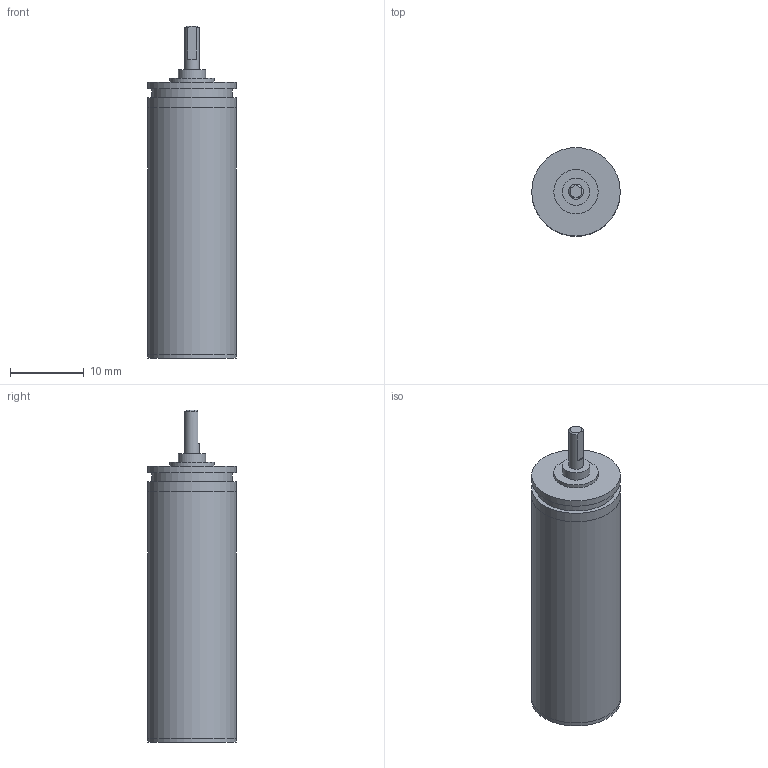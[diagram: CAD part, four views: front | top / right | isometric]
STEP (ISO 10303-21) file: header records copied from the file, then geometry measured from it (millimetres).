
FILE_DESCRIPTION(/* description */ (''),/* implementation_level */ '2;1');
FILE_NAME(/* name */ '12-3K_13.stp',/* time_stamp */ '2016-08-24T10:26:08+02:00',/* author */ ('DR. FRITZ FAULHABER GmbH & Co. KG'),/* organization */ ('DR. FRITZ FAULHABER GmbH & Co. KG'),/* preprocessor_version */ 'ST-DEVELOPER v16',/* originating_system */ 'SIEMENS PLM Software NX 10.0',/* authorisation */ '');
FILE_SCHEMA (('AUTOMOTIVE_DESIGN { 1 0 10303 214 3 1 1 1 }'));
Length unit declared in the file: millimetre
Products named in the file (1): H00000589_A
Bounding box: 12 x 12 x 45 mm (x, y, z)
Volume: 4179.2 mm3; surface area: 1798.3 mm2
Topology: 1 solids, 1 shells, 32 faces, 52 edges, 34 vertices
Faces by surface type: plane 16, cylinder 14, cone 2
Full cylindrical faces by diameter (mm): 2 x1, 2.48 x1, 2.6 x1, 3.7 x1, 5 x1, 6 x2, 10.88 x1, 11.99 x2, 12 x4
Entity records: 692 total; most frequent: DIRECTION 129, CARTESIAN_POINT 115, ORIENTED_EDGE 70, AXIS2_PLACEMENT_3D 63, EDGE_LOOP 59, FACE_BOUND 54, EDGE_CURVE 35, ADVANCED_FACE 32
